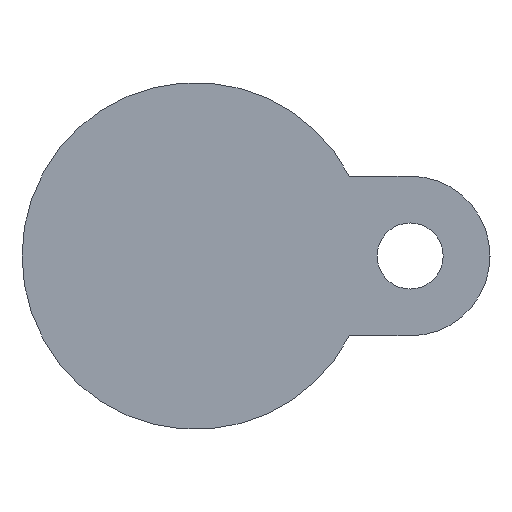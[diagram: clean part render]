
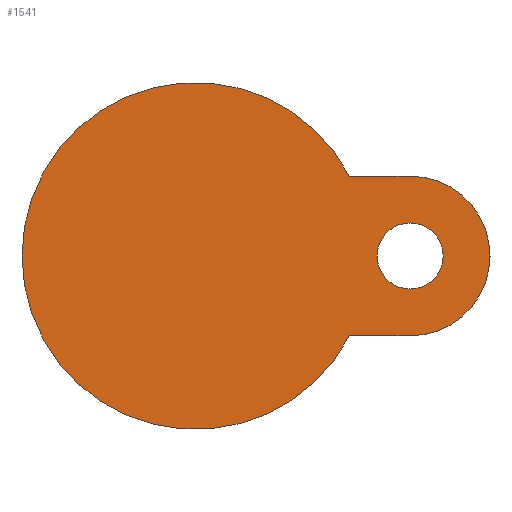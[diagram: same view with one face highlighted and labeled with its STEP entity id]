
A CAD part, front view. The second image highlights one B-rep face of the part: STEP entity #1541.
In plain terms, the highlighted planar face has unit normal (0, -1, 0).
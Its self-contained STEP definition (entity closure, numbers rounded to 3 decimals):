
#123 = CARTESIAN_POINT ( 'NONE',  ( 27.964, -15., 14.5 ) ) ;
#177 = EDGE_CURVE ( 'NONE', #2090, #4400, #5346, .T. ) ;
#235 = AXIS2_PLACEMENT_3D ( 'NONE', #2019, #2574, #1243 ) ;
#500 = DIRECTION ( 'NONE',  ( -1., 0., 0. ) ) ;
#504 = ORIENTED_EDGE ( 'NONE', *, *, #708, .T. ) ;
#632 = DIRECTION ( 'NONE',  ( 0., -1., 0. ) ) ;
#708 = EDGE_CURVE ( 'NONE', #3695, #2090, #1486, .T. ) ;
#778 = DIRECTION ( 'NONE',  ( 1., 0., 0. ) ) ;
#783 = CARTESIAN_POINT ( 'NONE',  ( 16.055, -15., 14.5 ) ) ;
#922 = DIRECTION ( 'NONE',  ( 0., 1., 0. ) ) ;
#1039 = VECTOR ( 'NONE', #2467, 1000. ) ;
#1243 = DIRECTION ( 'NONE',  ( 1., 0., 0. ) ) ;
#1271 = AXIS2_PLACEMENT_3D ( 'NONE', #3851, #922, #3907 ) ;
#1486 = CIRCLE ( 'NONE', #3950, 14.5 ) ;
#1502 = EDGE_CURVE ( 'NONE', #4388, #1884, #1540, .T. ) ;
#1540 = CIRCLE ( 'NONE', #2339, 6. ) ;
#1541 = ADVANCED_FACE ( 'NONE', ( #2470, #4178 ), #3355, .T. ) ;
#1696 = VERTEX_POINT ( 'NONE', #2432 ) ;
#1725 = DIRECTION ( 'NONE',  ( 1., 0., 0. ) ) ;
#1766 = VERTEX_POINT ( 'NONE', #4702 ) ;
#1786 = VERTEX_POINT ( 'NONE', #5029 ) ;
#1802 = CARTESIAN_POINT ( 'NONE',  ( 45., -15., 0. ) ) ;
#1884 = VERTEX_POINT ( 'NONE', #2457 ) ;
#1995 = CARTESIAN_POINT ( 'NONE',  ( 53.5, -15., 0. ) ) ;
#2019 = CARTESIAN_POINT ( 'NONE',  ( 39., -15., 0. ) ) ;
#2028 = DIRECTION ( 'NONE',  ( 0., -1., 0. ) ) ;
#2090 = VERTEX_POINT ( 'NONE', #2124 ) ;
#2124 = CARTESIAN_POINT ( 'NONE',  ( 39., -15., 14.5 ) ) ;
#2236 = AXIS2_PLACEMENT_3D ( 'NONE', #2530, #4211, #1725 ) ;
#2302 = ORIENTED_EDGE ( 'NONE', *, *, #5006, .F. ) ;
#2339 = AXIS2_PLACEMENT_3D ( 'NONE', #3326, #2527, #5014 ) ;
#2348 = CIRCLE ( 'NONE', #2961, 31.5 ) ;
#2352 = EDGE_CURVE ( 'NONE', #1786, #4400, #3659, .T. ) ;
#2432 = CARTESIAN_POINT ( 'NONE',  ( 27.964, -15., -14.5 ) ) ;
#2457 = CARTESIAN_POINT ( 'NONE',  ( 33., -15., 0. ) ) ;
#2467 = DIRECTION ( 'NONE',  ( -1., 0., 0. ) ) ;
#2470 = FACE_OUTER_BOUND ( 'NONE', #3266, .T. ) ;
#2527 = DIRECTION ( 'NONE',  ( 0., -1., 0. ) ) ;
#2530 = CARTESIAN_POINT ( 'NONE',  ( 39., -15., 0. ) ) ;
#2574 = DIRECTION ( 'NONE',  ( 0., -1., 0. ) ) ;
#2610 = CIRCLE ( 'NONE', #235, 14.5 ) ;
#2614 = ORIENTED_EDGE ( 'NONE', *, *, #2352, .F. ) ;
#2691 = EDGE_CURVE ( 'NONE', #1696, #1766, #4570, .T. ) ;
#2901 = CARTESIAN_POINT ( 'NONE',  ( 39., -15., -14.5 ) ) ;
#2961 = AXIS2_PLACEMENT_3D ( 'NONE', #3929, #4283, #500 ) ;
#2998 = ORIENTED_EDGE ( 'NONE', *, *, #2691, .T. ) ;
#3170 = CARTESIAN_POINT ( 'NONE',  ( 39., -15., 0. ) ) ;
#3189 = ORIENTED_EDGE ( 'NONE', *, *, #4322, .T. ) ;
#3266 = EDGE_LOOP ( 'NONE', ( #4929, #2998, #3189, #504, #4406, #2614 ) ) ;
#3326 = CARTESIAN_POINT ( 'NONE',  ( 39., -15., 0. ) ) ;
#3355 = PLANE ( 'NONE',  #5428 ) ;
#3368 = VECTOR ( 'NONE', #778, 1000. ) ;
#3642 = EDGE_LOOP ( 'NONE', ( #4142, #2302 ) ) ;
#3659 = CIRCLE ( 'NONE', #1271, 31.5 ) ;
#3695 = VERTEX_POINT ( 'NONE', #1995 ) ;
#3715 = DIRECTION ( 'NONE',  ( 1., 0., 0. ) ) ;
#3815 = CIRCLE ( 'NONE', #2236, 6. ) ;
#3825 = CARTESIAN_POINT ( 'NONE',  ( 0., -15., 0. ) ) ;
#3851 = CARTESIAN_POINT ( 'NONE',  ( 0., -15., 0. ) ) ;
#3907 = DIRECTION ( 'NONE',  ( -1., 0., 0. ) ) ;
#3929 = CARTESIAN_POINT ( 'NONE',  ( 0., -15., 0. ) ) ;
#3950 = AXIS2_PLACEMENT_3D ( 'NONE', #3170, #632, #4020 ) ;
#4020 = DIRECTION ( 'NONE',  ( 1., 0., 0. ) ) ;
#4142 = ORIENTED_EDGE ( 'NONE', *, *, #1502, .F. ) ;
#4178 = FACE_BOUND ( 'NONE', #3642, .T. ) ;
#4211 = DIRECTION ( 'NONE',  ( 0., -1., 0. ) ) ;
#4283 = DIRECTION ( 'NONE',  ( 0., 1., 0. ) ) ;
#4322 = EDGE_CURVE ( 'NONE', #1766, #3695, #2610, .T. ) ;
#4388 = VERTEX_POINT ( 'NONE', #1802 ) ;
#4400 = VERTEX_POINT ( 'NONE', #123 ) ;
#4406 = ORIENTED_EDGE ( 'NONE', *, *, #177, .T. ) ;
#4435 = EDGE_CURVE ( 'NONE', #1696, #1786, #2348, .T. ) ;
#4570 = LINE ( 'NONE', #2901, #3368 ) ;
#4702 = CARTESIAN_POINT ( 'NONE',  ( 39., -15., -14.5 ) ) ;
#4929 = ORIENTED_EDGE ( 'NONE', *, *, #4435, .F. ) ;
#5006 = EDGE_CURVE ( 'NONE', #1884, #4388, #3815, .T. ) ;
#5014 = DIRECTION ( 'NONE',  ( 1., 0., 0. ) ) ;
#5029 = CARTESIAN_POINT ( 'NONE',  ( -31.5, -15., 0. ) ) ;
#5346 = LINE ( 'NONE', #783, #1039 ) ;
#5428 = AXIS2_PLACEMENT_3D ( 'NONE', #3825, #2028, #3715 ) ;
